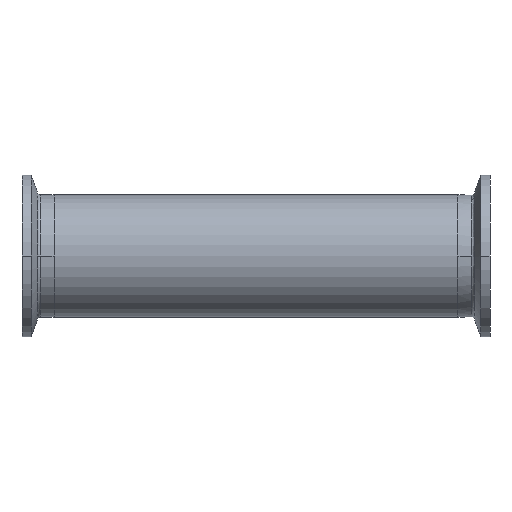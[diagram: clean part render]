
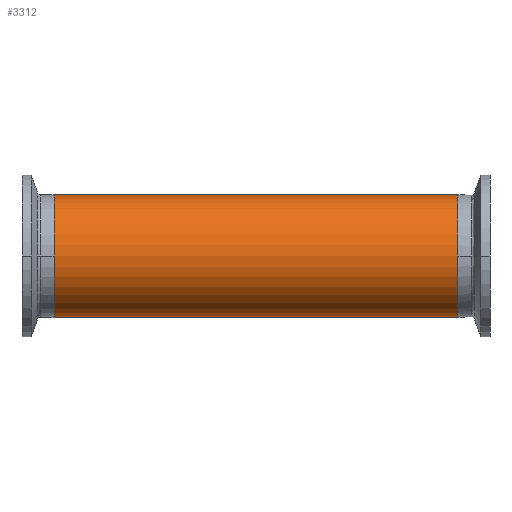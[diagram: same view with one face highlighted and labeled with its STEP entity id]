
A CAD part, front view. The second image highlights one B-rep face of the part: STEP entity #3312.
In plain terms, the highlighted cylindrical face has radius 19.05 mm (diameter 38.1 mm), a partial arc.
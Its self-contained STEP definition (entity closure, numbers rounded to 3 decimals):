
#23 = DIRECTION ( 'NONE',  ( -1., 0., 0. ) ) ;
#104 = CARTESIAN_POINT ( 'NONE',  ( 63., 0., -19.05 ) ) ;
#136 = EDGE_CURVE ( 'NONE', #628, #2307, #3304, .T. ) ;
#347 = EDGE_CURVE ( 'NONE', #2307, #677, #796, .T. ) ;
#528 = VECTOR ( 'NONE', #3469, 1000. ) ;
#598 = CARTESIAN_POINT ( 'NONE',  ( 63., 0., 0. ) ) ;
#623 = CYLINDRICAL_SURFACE ( 'NONE', #777, 19.05 ) ;
#626 = LINE ( 'NONE', #2207, #528 ) ;
#628 = VERTEX_POINT ( 'NONE', #1133 ) ;
#666 = DIRECTION ( 'NONE',  ( 0., 0., 1. ) ) ;
#677 = VERTEX_POINT ( 'NONE', #815 ) ;
#777 = AXIS2_PLACEMENT_3D ( 'NONE', #1605, #23, #666 ) ;
#796 = CIRCLE ( 'NONE', #3195, 19.05 ) ;
#815 = CARTESIAN_POINT ( 'NONE',  ( -63., 0., -19.05 ) ) ;
#925 = DIRECTION ( 'NONE',  ( 0., 0., 1. ) ) ;
#1125 = ORIENTED_EDGE ( 'NONE', *, *, #136, .T. ) ;
#1133 = CARTESIAN_POINT ( 'NONE',  ( 63., 0., 19.05 ) ) ;
#1605 = CARTESIAN_POINT ( 'NONE',  ( 116.882, 0., 0. ) ) ;
#1736 = ORIENTED_EDGE ( 'NONE', *, *, #2733, .F. ) ;
#1885 = ORIENTED_EDGE ( 'NONE', *, *, #347, .T. ) ;
#2089 = CARTESIAN_POINT ( 'NONE',  ( -63., 0., 19.05 ) ) ;
#2207 = CARTESIAN_POINT ( 'NONE',  ( 116.882, 0., -19.05 ) ) ;
#2307 = VERTEX_POINT ( 'NONE', #2089 ) ;
#2426 = VERTEX_POINT ( 'NONE', #104 ) ;
#2491 = DIRECTION ( 'NONE',  ( 0., 0., 1. ) ) ;
#2509 = DIRECTION ( 'NONE',  ( 1., 0., 0. ) ) ;
#2539 = CARTESIAN_POINT ( 'NONE',  ( -63., 0., 0. ) ) ;
#2727 = EDGE_CURVE ( 'NONE', #2426, #628, #3078, .T. ) ;
#2733 = EDGE_CURVE ( 'NONE', #2426, #677, #626, .T. ) ;
#2798 = AXIS2_PLACEMENT_3D ( 'NONE', #598, #2839, #925 ) ;
#2839 = DIRECTION ( 'NONE',  ( -1., 0., 0. ) ) ;
#3078 = CIRCLE ( 'NONE', #2798, 19.05 ) ;
#3184 = FACE_OUTER_BOUND ( 'NONE', #3432, .T. ) ;
#3195 = AXIS2_PLACEMENT_3D ( 'NONE', #2539, #2509, #2491 ) ;
#3298 = ORIENTED_EDGE ( 'NONE', *, *, #2727, .T. ) ;
#3304 = LINE ( 'NONE', #3528, #3928 ) ;
#3312 = ADVANCED_FACE ( 'NONE', ( #3184 ), #623, .T. ) ;
#3432 = EDGE_LOOP ( 'NONE', ( #1736, #3298, #1125, #1885 ) ) ;
#3469 = DIRECTION ( 'NONE',  ( -1., 0., 0. ) ) ;
#3528 = CARTESIAN_POINT ( 'NONE',  ( 116.882, 0., 19.05 ) ) ;
#3537 = DIRECTION ( 'NONE',  ( -1., 0., 0. ) ) ;
#3928 = VECTOR ( 'NONE', #3537, 1000. ) ;
